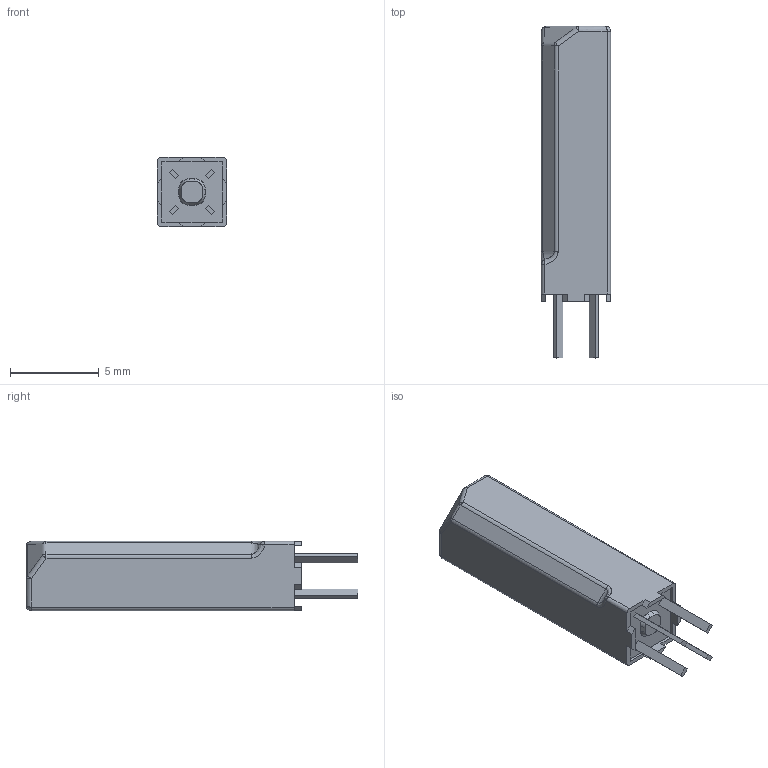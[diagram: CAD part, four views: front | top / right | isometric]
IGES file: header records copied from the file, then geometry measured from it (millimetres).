
Start section: SolidWorks IGES file using analytic representation for surfaces
Global section: file name: R:\00 - SolidWorks\120 Box\Version for Website 3D Models\120-1-A-5-1.IGS; native system: SolidWorks 2017; preprocessor: SolidWorks 2017; author: elton.taylor; date: 180611.114439; units: millimetre
Bounding box: 3.9 x 18.7 x 3.9 mm (x, y, z)
Surface area: 282.9 mm2 (no closed solid volume)
Topology: 0 solids, 0 shells, 361 faces, 3377 edges, 3371 vertices
Faces by surface type: bspline 338, revolution 23
